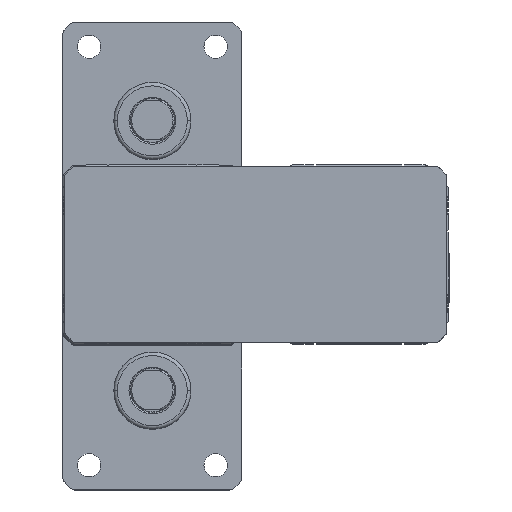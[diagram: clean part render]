
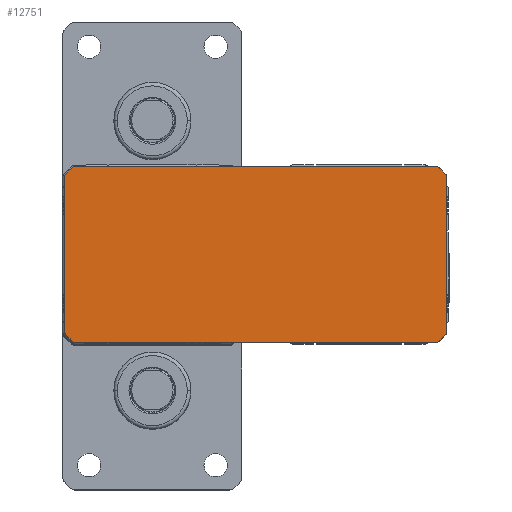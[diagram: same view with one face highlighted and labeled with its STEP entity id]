
A CAD part, top view. The second image highlights one B-rep face of the part: STEP entity #12751.
In plain terms, the highlighted planar face has unit normal (0, 0, 1).
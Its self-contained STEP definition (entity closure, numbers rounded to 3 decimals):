
#72 = VECTOR ( 'NONE', #52190, 1000. ) ;
#177 = CARTESIAN_POINT ( 'NONE',  ( -32., -28., 294. ) ) ;
#232 = CIRCLE ( 'NONE', #45510, 1.5 ) ;
#401 = DIRECTION ( 'NONE',  ( 0.707, -0.707, 0. ) ) ;
#461 = DIRECTION ( 'NONE',  ( 1., 0., 0. ) ) ;
#581 = ORIENTED_EDGE ( 'NONE', *, *, #24617, .T. ) ;
#685 = CARTESIAN_POINT ( 'NONE',  ( 103., 32., 294. ) ) ;
#762 = DIRECTION ( 'NONE',  ( 0., 0., 1. ) ) ;
#1179 = VERTEX_POINT ( 'NONE', #42754 ) ;
#1606 = CARTESIAN_POINT ( 'NONE',  ( 106.561, 29.061, 294. ) ) ;
#1744 = EDGE_CURVE ( 'NONE', #12371, #1179, #4028, .T. ) ;
#2212 = DIRECTION ( 'NONE',  ( 1., 0., 0. ) ) ;
#2324 = CIRCLE ( 'NONE', #24371, 1.5 ) ;
#2422 = AXIS2_PLACEMENT_3D ( 'NONE', #36059, #11890, #40153 ) ;
#3478 = EDGE_CURVE ( 'NONE', #8960, #12371, #6333, .T. ) ;
#4028 = CIRCLE ( 'NONE', #13851, 1.5 ) ;
#4110 = VERTEX_POINT ( 'NONE', #25004 ) ;
#4921 = VERTEX_POINT ( 'NONE', #26194 ) ;
#4935 = EDGE_CURVE ( 'NONE', #23298, #39309, #39067, .T. ) ;
#6216 = CIRCLE ( 'NONE', #28276, 1.5 ) ;
#6333 = LINE ( 'NONE', #1606, #14577 ) ;
#7729 = EDGE_CURVE ( 'NONE', #51074, #40739, #37542, .T. ) ;
#8003 = LINE ( 'NONE', #26635, #38980 ) ;
#8960 = VERTEX_POINT ( 'NONE', #34388 ) ;
#9736 = EDGE_CURVE ( 'NONE', #40739, #10237, #10845, .T. ) ;
#9893 = ORIENTED_EDGE ( 'NONE', *, *, #25559, .T. ) ;
#10237 = VERTEX_POINT ( 'NONE', #177 ) ;
#10311 = ORIENTED_EDGE ( 'NONE', *, *, #34134, .T. ) ;
#10845 = LINE ( 'NONE', #27938, #72 ) ;
#11644 = CARTESIAN_POINT ( 'NONE',  ( 107., -28., 294. ) ) ;
#11890 = DIRECTION ( 'NONE',  ( 0., 0., 1. ) ) ;
#12034 = AXIS2_PLACEMENT_3D ( 'NONE', #24917, #762, #28959 ) ;
#12371 = VERTEX_POINT ( 'NONE', #46995 ) ;
#12390 = EDGE_CURVE ( 'NONE', #39309, #4110, #8003, .T. ) ;
#12751 = ADVANCED_FACE ( 'NONE', ( #22478 ), #37958, .T. ) ;
#13610 = VECTOR ( 'NONE', #22038, 1000. ) ;
#13774 = CARTESIAN_POINT ( 'NONE',  ( -30.5, -28., 294. ) ) ;
#13851 = AXIS2_PLACEMENT_3D ( 'NONE', #46612, #22409, #50684 ) ;
#14248 = ORIENTED_EDGE ( 'NONE', *, *, #25630, .T. ) ;
#14437 = DIRECTION ( 'NONE',  ( 0., 0., 1. ) ) ;
#14577 = VECTOR ( 'NONE', #46114, 1000. ) ;
#16134 = ORIENTED_EDGE ( 'NONE', *, *, #45706, .T. ) ;
#16219 = CARTESIAN_POINT ( 'NONE',  ( -29.061, -31.561, 294. ) ) ;
#17017 = AXIS2_PLACEMENT_3D ( 'NONE', #50599, #26370, #2212 ) ;
#17818 = DIRECTION ( 'NONE',  ( 0., 0., 1. ) ) ;
#18348 = CARTESIAN_POINT ( 'NONE',  ( -30.5, 28., 294. ) ) ;
#18522 = ORIENTED_EDGE ( 'NONE', *, *, #20063, .T. ) ;
#19366 = EDGE_LOOP ( 'NONE', ( #41578, #24816, #581, #14248, #44780, #9893, #40943, #39958, #18522, #43540, #26120, #32499, #16134, #10311, #19825, #36590 ) ) ;
#19503 = LINE ( 'NONE', #46302, #41018 ) ;
#19825 = ORIENTED_EDGE ( 'NONE', *, *, #7729, .T. ) ;
#20063 = EDGE_CURVE ( 'NONE', #4110, #8960, #232, .T. ) ;
#20712 = LINE ( 'NONE', #685, #40979 ) ;
#21859 = CARTESIAN_POINT ( 'NONE',  ( -32., 28., 294. ) ) ;
#22038 = DIRECTION ( 'NONE',  ( 1., 0., 0. ) ) ;
#22403 = DIRECTION ( 'NONE',  ( 1., 0., 0. ) ) ;
#22409 = DIRECTION ( 'NONE',  ( 0., 0., 1. ) ) ;
#22478 = FACE_OUTER_BOUND ( 'NONE', #19366, .T. ) ;
#23281 = VERTEX_POINT ( 'NONE', #38311 ) ;
#23298 = VERTEX_POINT ( 'NONE', #30269 ) ;
#23462 = CARTESIAN_POINT ( 'NONE',  ( -28., -30.5, 294. ) ) ;
#23571 = VERTEX_POINT ( 'NONE', #16219 ) ;
#24254 = CIRCLE ( 'NONE', #12034, 1.5 ) ;
#24299 = LINE ( 'NONE', #38156, #13610 ) ;
#24371 = AXIS2_PLACEMENT_3D ( 'NONE', #23462, #51747, #27496 ) ;
#24610 = DIRECTION ( 'NONE',  ( 0., 0., 1. ) ) ;
#24617 = EDGE_CURVE ( 'NONE', #23571, #45406, #2324, .T. ) ;
#24816 = ORIENTED_EDGE ( 'NONE', *, *, #46335, .T. ) ;
#24917 = CARTESIAN_POINT ( 'NONE',  ( 103., -30.5, 294. ) ) ;
#25004 = CARTESIAN_POINT ( 'NONE',  ( 107., 28., 294. ) ) ;
#25310 = EDGE_CURVE ( 'NONE', #10237, #36806, #28739, .T. ) ;
#25559 = EDGE_CURVE ( 'NONE', #4921, #23298, #48361, .T. ) ;
#25630 = EDGE_CURVE ( 'NONE', #45406, #23281, #24299, .T. ) ;
#26120 = ORIENTED_EDGE ( 'NONE', *, *, #1744, .T. ) ;
#26194 = CARTESIAN_POINT ( 'NONE',  ( 104.061, -31.561, 294. ) ) ;
#26370 = DIRECTION ( 'NONE',  ( 0., 0., 1. ) ) ;
#26635 = CARTESIAN_POINT ( 'NONE',  ( 107., -28., 294. ) ) ;
#26827 = VECTOR ( 'NONE', #49969, 1000. ) ;
#27496 = DIRECTION ( 'NONE',  ( 1., 0., 0. ) ) ;
#27938 = CARTESIAN_POINT ( 'NONE',  ( -32., 28., 294. ) ) ;
#28276 = AXIS2_PLACEMENT_3D ( 'NONE', #48863, #24610, #461 ) ;
#28739 = CIRCLE ( 'NONE', #2422, 1.5 ) ;
#28889 = DIRECTION ( 'NONE',  ( -1., 0., 0. ) ) ;
#28959 = DIRECTION ( 'NONE',  ( 1., 0., 0. ) ) ;
#30163 = CARTESIAN_POINT ( 'NONE',  ( -31.561, -29.061, 294. ) ) ;
#30269 = CARTESIAN_POINT ( 'NONE',  ( 106.561, -29.061, 294. ) ) ;
#31548 = VERTEX_POINT ( 'NONE', #43073 ) ;
#32499 = ORIENTED_EDGE ( 'NONE', *, *, #34546, .T. ) ;
#34036 = AXIS2_PLACEMENT_3D ( 'NONE', #13774, #17818, #46077 ) ;
#34134 = EDGE_CURVE ( 'NONE', #31548, #51074, #19503, .T. ) ;
#34388 = CARTESIAN_POINT ( 'NONE',  ( 106.561, 29.061, 294. ) ) ;
#34546 = EDGE_CURVE ( 'NONE', #1179, #51839, #20712, .T. ) ;
#34746 = CARTESIAN_POINT ( 'NONE',  ( -28., -32., 294. ) ) ;
#36059 = CARTESIAN_POINT ( 'NONE',  ( -30.5, -28., 294. ) ) ;
#36590 = ORIENTED_EDGE ( 'NONE', *, *, #9736, .T. ) ;
#36806 = VERTEX_POINT ( 'NONE', #30163 ) ;
#37542 = CIRCLE ( 'NONE', #43841, 1.5 ) ;
#37810 = CARTESIAN_POINT ( 'NONE',  ( 104.061, -31.561, 294. ) ) ;
#37958 = PLANE ( 'NONE',  #34036 ) ;
#38156 = CARTESIAN_POINT ( 'NONE',  ( -28., -32., 294. ) ) ;
#38199 = DIRECTION ( 'NONE',  ( -0.707, -0.707, 0. ) ) ;
#38311 = CARTESIAN_POINT ( 'NONE',  ( 103., -32., 294. ) ) ;
#38619 = CARTESIAN_POINT ( 'NONE',  ( 105.5, 28., 294. ) ) ;
#38980 = VECTOR ( 'NONE', #51063, 1000. ) ;
#39067 = CIRCLE ( 'NONE', #17017, 1.5 ) ;
#39309 = VERTEX_POINT ( 'NONE', #11644 ) ;
#39768 = VECTOR ( 'NONE', #401, 1000. ) ;
#39958 = ORIENTED_EDGE ( 'NONE', *, *, #12390, .T. ) ;
#40153 = DIRECTION ( 'NONE',  ( 1., 0., 0. ) ) ;
#40739 = VERTEX_POINT ( 'NONE', #21859 ) ;
#40943 = ORIENTED_EDGE ( 'NONE', *, *, #4935, .T. ) ;
#40979 = VECTOR ( 'NONE', #28889, 1000. ) ;
#41018 = VECTOR ( 'NONE', #38199, 1000. ) ;
#41458 = CARTESIAN_POINT ( 'NONE',  ( -28., 32., 294. ) ) ;
#41578 = ORIENTED_EDGE ( 'NONE', *, *, #25310, .T. ) ;
#42676 = DIRECTION ( 'NONE',  ( 1., 0., 0. ) ) ;
#42754 = CARTESIAN_POINT ( 'NONE',  ( 103., 32., 294. ) ) ;
#43073 = CARTESIAN_POINT ( 'NONE',  ( -29.061, 31.561, 294. ) ) ;
#43540 = ORIENTED_EDGE ( 'NONE', *, *, #3478, .T. ) ;
#43841 = AXIS2_PLACEMENT_3D ( 'NONE', #18348, #46608, #22403 ) ;
#44780 = ORIENTED_EDGE ( 'NONE', *, *, #52359, .T. ) ;
#45406 = VERTEX_POINT ( 'NONE', #34746 ) ;
#45510 = AXIS2_PLACEMENT_3D ( 'NONE', #38619, #14437, #42676 ) ;
#45706 = EDGE_CURVE ( 'NONE', #51839, #31548, #6216, .T. ) ;
#46077 = DIRECTION ( 'NONE',  ( 1., 0., 0. ) ) ;
#46114 = DIRECTION ( 'NONE',  ( -0.707, 0.707, 0. ) ) ;
#46302 = CARTESIAN_POINT ( 'NONE',  ( -29.061, 31.561, 294. ) ) ;
#46335 = EDGE_CURVE ( 'NONE', #36806, #23571, #50478, .T. ) ;
#46608 = DIRECTION ( 'NONE',  ( 0., 0., 1. ) ) ;
#46612 = CARTESIAN_POINT ( 'NONE',  ( 103., 30.5, 294. ) ) ;
#46995 = CARTESIAN_POINT ( 'NONE',  ( 104.061, 31.561, 294. ) ) ;
#47828 = CARTESIAN_POINT ( 'NONE',  ( -31.561, 29.061, 294. ) ) ;
#48361 = LINE ( 'NONE', #37810, #26827 ) ;
#48788 = CARTESIAN_POINT ( 'NONE',  ( -31.561, -29.061, 294. ) ) ;
#48863 = CARTESIAN_POINT ( 'NONE',  ( -28., 30.5, 294. ) ) ;
#49969 = DIRECTION ( 'NONE',  ( 0.707, 0.707, 0. ) ) ;
#50478 = LINE ( 'NONE', #48788, #39768 ) ;
#50599 = CARTESIAN_POINT ( 'NONE',  ( 105.5, -28., 294. ) ) ;
#50684 = DIRECTION ( 'NONE',  ( 1., 0., 0. ) ) ;
#51063 = DIRECTION ( 'NONE',  ( 0., 1., 0. ) ) ;
#51074 = VERTEX_POINT ( 'NONE', #47828 ) ;
#51747 = DIRECTION ( 'NONE',  ( 0., 0., 1. ) ) ;
#51839 = VERTEX_POINT ( 'NONE', #41458 ) ;
#52190 = DIRECTION ( 'NONE',  ( 0., -1., 0. ) ) ;
#52359 = EDGE_CURVE ( 'NONE', #23281, #4921, #24254, .T. ) ;
